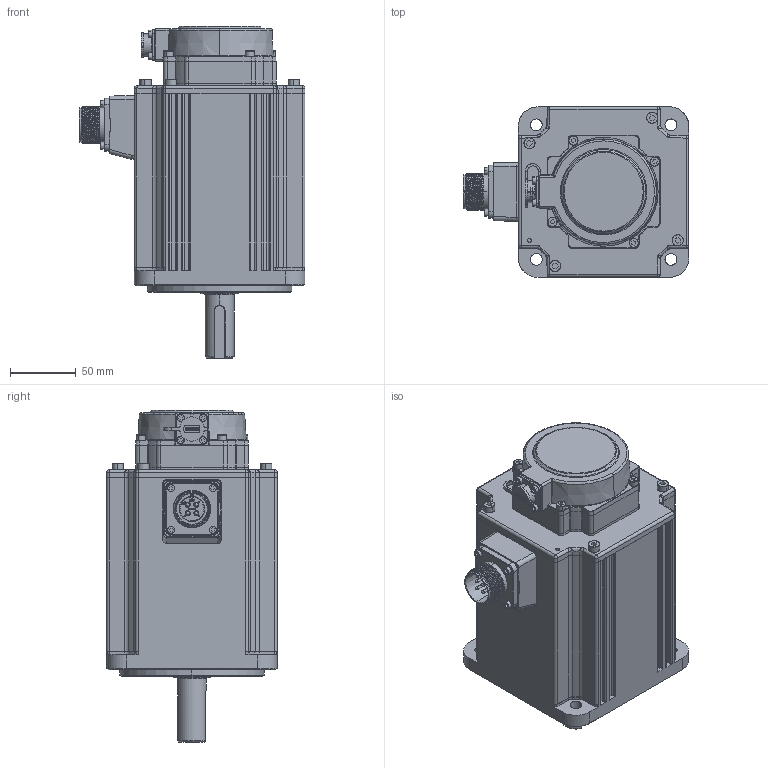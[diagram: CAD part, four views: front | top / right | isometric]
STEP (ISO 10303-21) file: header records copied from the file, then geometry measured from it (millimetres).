
FILE_DESCRIPTION (( 'STEP AP203' ), '1' );
FILE_NAME ('MS6G-130TH15E2-42P3.STEP', '2024-06-18T07:40:33', ( '' ), ( '' ), 'SwSTEP 2.0', 'SolidWorks 2022', '' );
FILE_SCHEMA (( 'CONFIG_CONTROL_DESIGN' ));
Products named in the file (1): MS6G-130TH15E2-42P3
Bounding box: 172.1 x 130 x 253 mm (x, y, z)
Volume: 2643382.6 mm3; surface area: 237633.6 mm2
Topology: 26 solids, 26 shells, 2803 faces, 7552 edges, 4918 vertices
Faces by surface type: plane 1412, cylinder 660, bspline 432, cone 145, torus 134, sphere 20
Entity records: 104635 total; most frequent: CARTESIAN_POINT 39677, ORIENTED_EDGE 14952, DIRECTION 11103, EDGE_CURVE 7476, VERTEX_POINT 4908, VECTOR 3761, LINE 3761, AXIS2_PLACEMENT_3D 3671
